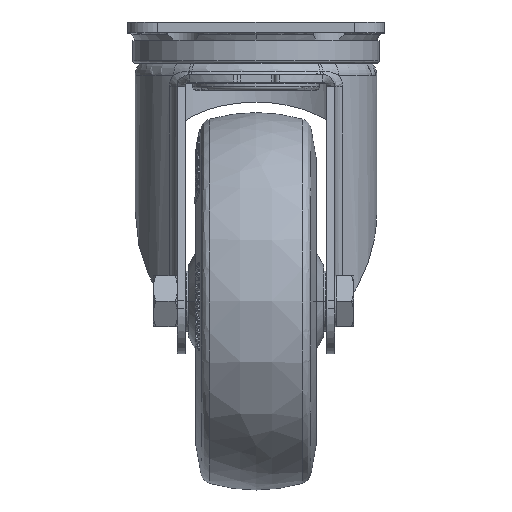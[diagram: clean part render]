
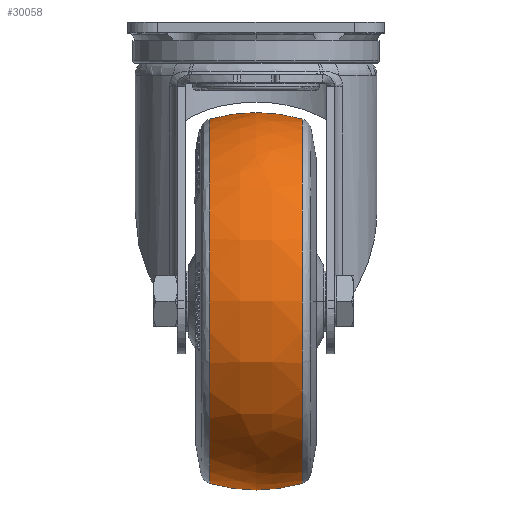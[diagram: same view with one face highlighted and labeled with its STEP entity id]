
A CAD part, top view. The second image highlights one B-rep face of the part: STEP entity #30058.
In plain terms, the highlighted free-form (B-spline) face has degree [3, 3] with [4, 4] control points.
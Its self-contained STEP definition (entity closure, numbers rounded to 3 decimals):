
#3540 = CIRCLE ( 'NONE', #52012, 55. ) ;
#3543 = CIRCLE ( 'NONE', #52002, 60.303 ) ;
#3545 = CIRCLE ( 'NONE', #52018, 55. ) ;
#3557 = CIRCLE ( 'NONE', #52032, 60.303 ) ;
#5940 = ORIENTED_EDGE ( 'NONE', *, *, #43322, .F. ) ;
#5941 = ORIENTED_EDGE ( 'NONE', *, *, #43338, .T. ) ;
#5942 = ORIENTED_EDGE ( 'NONE', *, *, #43326, .T. ) ;
#5943 = ORIENTED_EDGE ( 'NONE', *, *, #43324, .T. ) ;
#12418 =( BOUNDED_SURFACE ( )  B_SPLINE_SURFACE ( 3, 3, ( 
 ( #20882, #20860, #20874, #20884 ),
 ( #20885, #20886, #20887, #20888 ),
 ( #20889, #20890, #20891, #20892 ),
 ( #20893, #20894, #20895, #20896 ) ),
 .UNSPECIFIED., .F., .F., .T. ) 
 B_SPLINE_SURFACE_WITH_KNOTS ( ( 4, 4 ),
 ( 4, 4 ),
 ( 0., 1. ),
 ( 0., 1. ),
 .UNSPECIFIED. ) 
 GEOMETRIC_REPRESENTATION_ITEM ( )  RATIONAL_B_SPLINE_SURFACE ( (
 ( 1., 0.333, 0.333, 1.),
 ( 0.973, 0.324, 0.324, 0.973),
 ( 0.973, 0.324, 0.324, 0.973),
 ( 1., 0.333, 0.333, 1.) ) ) 
 REPRESENTATION_ITEM ( '' )  SURFACE ( )  );
#20860 = CARTESIAN_POINT ( 'NONE',  ( 15.389, 60.303, 120.606 ) ) ;
#20874 = CARTESIAN_POINT ( 'NONE',  ( 15.389, -60.303, 120.606 ) ) ;
#20882 = CARTESIAN_POINT ( 'NONE',  ( 15.389, 60.303, 0. ) ) ;
#20884 = CARTESIAN_POINT ( 'NONE',  ( 15.389, -60.303, 0. ) ) ;
#20885 = CARTESIAN_POINT ( 'NONE',  ( 5.27, 63.252, 0. ) ) ;
#20886 = CARTESIAN_POINT ( 'NONE',  ( 5.27, 63.252, 126.505 ) ) ;
#20887 = CARTESIAN_POINT ( 'NONE',  ( 5.27, -63.252, 126.505 ) ) ;
#20888 = CARTESIAN_POINT ( 'NONE',  ( 5.27, -63.252, 0. ) ) ;
#20889 = CARTESIAN_POINT ( 'NONE',  ( -5.27, 63.252, 0. ) ) ;
#20890 = CARTESIAN_POINT ( 'NONE',  ( -5.27, 63.252, 126.505 ) ) ;
#20891 = CARTESIAN_POINT ( 'NONE',  ( -5.27, -63.252, 126.505 ) ) ;
#20892 = CARTESIAN_POINT ( 'NONE',  ( -5.27, -63.252, 0. ) ) ;
#20893 = CARTESIAN_POINT ( 'NONE',  ( -15.389, 60.303, 0. ) ) ;
#20894 = CARTESIAN_POINT ( 'NONE',  ( -15.389, 60.303, 120.606 ) ) ;
#20895 = CARTESIAN_POINT ( 'NONE',  ( -15.389, -60.303, 120.606 ) ) ;
#20896 = CARTESIAN_POINT ( 'NONE',  ( -15.389, -60.303, 0. ) ) ;
#30058 = ADVANCED_FACE ( 'NONE', ( #31744 ), #12418, .T. ) ;
#31744 = FACE_OUTER_BOUND ( 'NONE', #48382, .T. ) ;
#43322 = EDGE_CURVE ( 'NONE', #46554, #46552, #3540, .T. ) ;
#43324 = EDGE_CURVE ( 'NONE', #46554, #46555, #3543, .T. ) ;
#43326 = EDGE_CURVE ( 'NONE', #46555, #46553, #3545, .T. ) ;
#43338 = EDGE_CURVE ( 'NONE', #46553, #46552, #3557, .T. ) ;
#46552 = VERTEX_POINT ( 'NONE', #56618 ) ;
#46553 = VERTEX_POINT ( 'NONE', #56620 ) ;
#46554 = VERTEX_POINT ( 'NONE', #56621 ) ;
#46555 = VERTEX_POINT ( 'NONE', #56623 ) ;
#48382 = EDGE_LOOP ( 'NONE', ( #5943, #5942, #5941, #5940 ) ) ;
#52002 = AXIS2_PLACEMENT_3D ( 'NONE', #67890, #67902, #67904 ) ;
#52012 = AXIS2_PLACEMENT_3D ( 'NONE', #67839, #67891, #67892 ) ;
#52018 = AXIS2_PLACEMENT_3D ( 'NONE', #67906, #67910, #67911 ) ;
#52032 = AXIS2_PLACEMENT_3D ( 'NONE', #67947, #67956, #67957 ) ;
#56618 = CARTESIAN_POINT ( 'NONE',  ( -15.389, -60.303, 0. ) ) ;
#56620 = CARTESIAN_POINT ( 'NONE',  ( -15.389, 60.303, 0. ) ) ;
#56621 = CARTESIAN_POINT ( 'NONE',  ( 15.389, -60.303, 0. ) ) ;
#56623 = CARTESIAN_POINT ( 'NONE',  ( 15.389, 60.303, 0. ) ) ;
#67839 = CARTESIAN_POINT ( 'NONE',  ( 0., -7.5, 0. ) ) ;
#67890 = CARTESIAN_POINT ( 'NONE',  ( 15.389, 0., 0. ) ) ;
#67891 = DIRECTION ( 'NONE',  ( 0., 0., -1. ) ) ;
#67892 = DIRECTION ( 'NONE',  ( 0., -1., 0. ) ) ;
#67902 = DIRECTION ( 'NONE',  ( -1., 0., 0. ) ) ;
#67904 = DIRECTION ( 'NONE',  ( 0., -1., 0. ) ) ;
#67906 = CARTESIAN_POINT ( 'NONE',  ( 0., 7.5, 0. ) ) ;
#67910 = DIRECTION ( 'NONE',  ( 0., 0., 1. ) ) ;
#67911 = DIRECTION ( 'NONE',  ( 0., 1., 0. ) ) ;
#67947 = CARTESIAN_POINT ( 'NONE',  ( -15.389, 0., 0. ) ) ;
#67956 = DIRECTION ( 'NONE',  ( 1., 0., 0. ) ) ;
#67957 = DIRECTION ( 'NONE',  ( 0., -1., 0. ) ) ;
